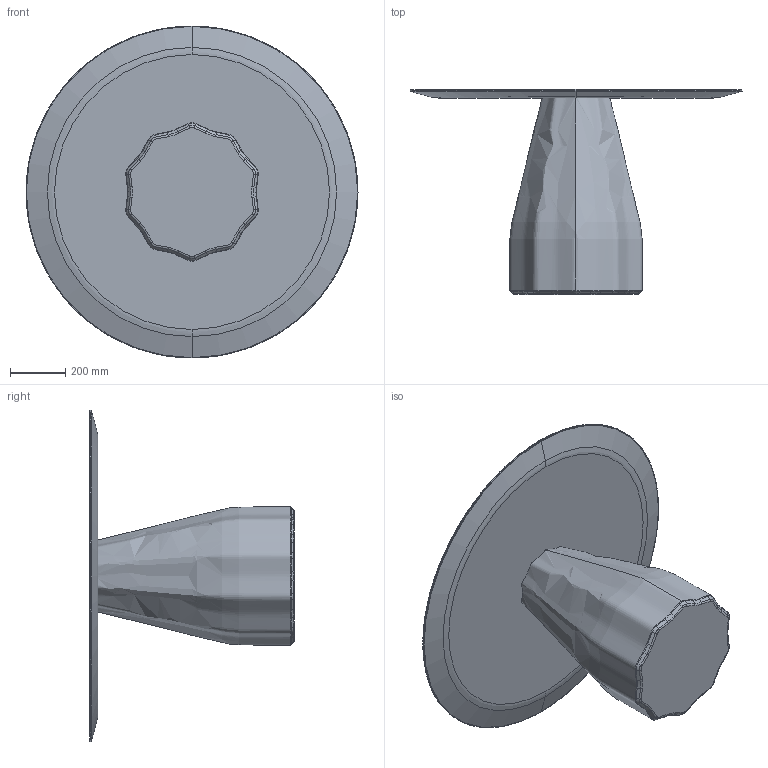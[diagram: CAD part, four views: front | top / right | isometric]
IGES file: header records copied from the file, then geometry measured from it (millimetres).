
Start section: SolidWorks IGES file using analytic representation for surfaces
Global section: file name: Z:\01-VICCARBE\VICCARBE TECNICO 2018\6.-Studio VCCB\Otros\Burin\Modelado\WEB\Nueva carpeta\BurinH74D120.IGS; native system: SolidWorks 2013; preprocessor: SolidWorks 2013; author: Usuario; date: 190219.125118; units: millimetre
Bounding box: 1200 x 740 x 1200 mm (x, y, z)
Volume: 123150681.1 mm3; surface area: 3446003.2 mm2
Topology: 2 solids, 2 shells, 136 faces, 348 edges, 216 vertices
Faces by surface type: bspline 122, revolution 10, plane 4
